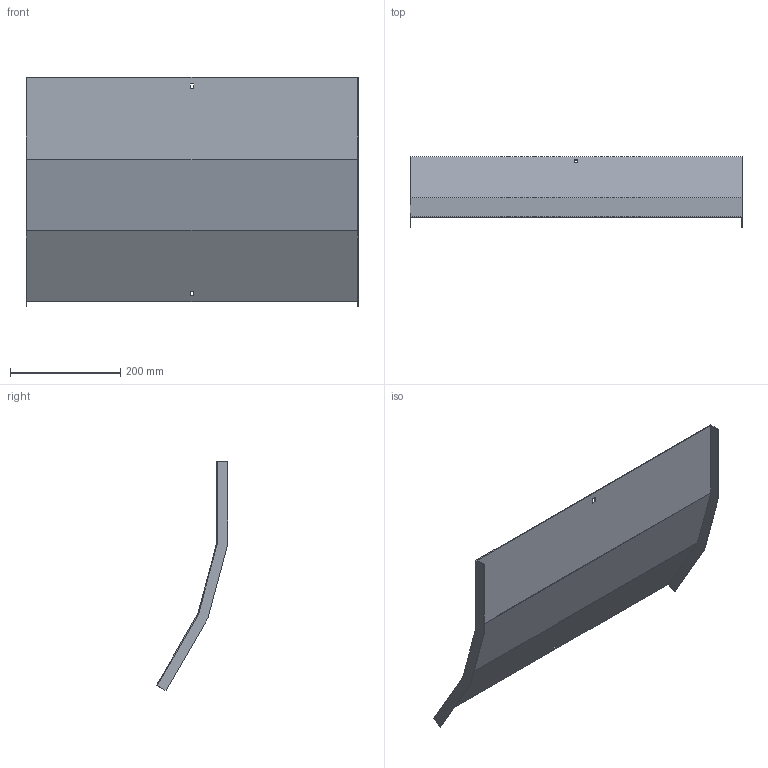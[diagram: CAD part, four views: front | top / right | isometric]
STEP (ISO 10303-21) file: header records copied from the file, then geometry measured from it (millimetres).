
FILE_DESCRIPTION (( 'STEP AP214' ), '1' );
FILE_NAME ('B2X32N5R600X.step', '2025-03-20T09:40:41', ( '' ), ( '' ), 'SwSTEP 2.0', 'SolidWorks 2023', '' );
FILE_SCHEMA (( 'AUTOMOTIVE_DESIGN' ));
Length unit declared in the file: millimetre
Products named in the file (1): B2X32N5R600X
Bounding box: 603 x 128.96 x 416.64 mm (x, y, z)
Volume: 414447.9 mm3; surface area: 555934.2 mm2
Topology: 1 solids, 1 shells, 26 faces, 72 edges, 48 vertices
Faces by surface type: plane 26
Entity records: 847 total; most frequent: CARTESIAN_POINT 147, ORIENTED_EDGE 144, DIRECTION 126, EDGE_CURVE 72, LINE 72, VECTOR 72, VERTEX_POINT 48, EDGE_LOOP 30
